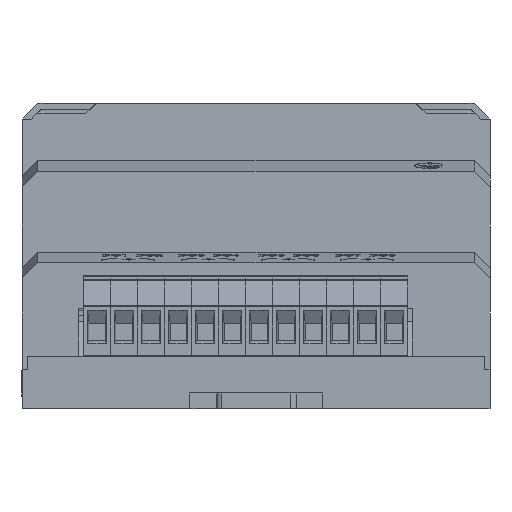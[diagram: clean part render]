
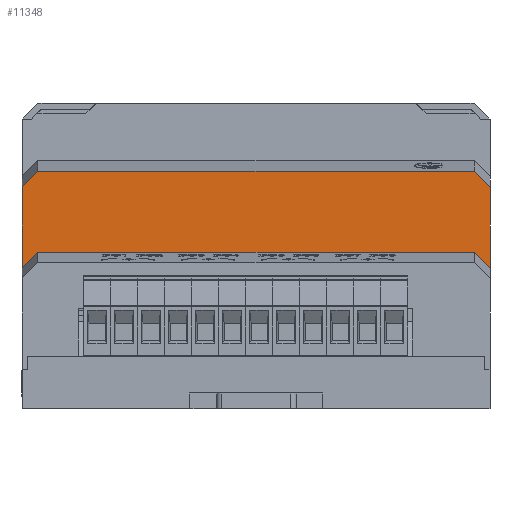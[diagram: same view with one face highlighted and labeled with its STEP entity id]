
A CAD part, front view. The second image highlights one B-rep face of the part: STEP entity #11348.
In plain terms, the highlighted planar face has unit normal (0, -1, 0).
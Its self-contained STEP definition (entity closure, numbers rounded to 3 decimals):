
#1126 = ORIENTED_EDGE ( 'NONE', *, *, #45878, .T. ) ;
#1438 = PLANE ( 'NONE',  #136729 ) ;
#4014 = CARTESIAN_POINT ( 'NONE',  ( 85., 10.85, 22.06 ) ) ;
#6213 = DIRECTION ( 'NONE',  ( 0., 0., -1. ) ) ;
#7848 = CARTESIAN_POINT ( 'NONE',  ( 0., 10.85, 37.272 ) ) ;
#10542 = ORIENTED_EDGE ( 'NONE', *, *, #114056, .T. ) ;
#11348 = ADVANCED_FACE ( 'NONE', ( #72200 ), #1438, .F. ) ;
#11481 = EDGE_LOOP ( 'NONE', ( #22865, #48694, #10542, #30078, #1126, #23134, #46437, #118535 ) ) ;
#13149 = DIRECTION ( 'NONE',  ( 0., 0., 1. ) ) ;
#15981 = LINE ( 'NONE', #7848, #124207 ) ;
#19309 = EDGE_CURVE ( 'NONE', #109772, #67808, #58591, .T. ) ;
#21436 = CARTESIAN_POINT ( 'NONE',  ( 4.014, 10.85, 38.302 ) ) ;
#21937 = LINE ( 'NONE', #105141, #100846 ) ;
#22442 = EDGE_CURVE ( 'NONE', #40809, #143829, #116569, .T. ) ;
#22865 = ORIENTED_EDGE ( 'NONE', *, *, #40527, .F. ) ;
#23134 = ORIENTED_EDGE ( 'NONE', *, *, #72952, .T. ) ;
#28817 = DIRECTION ( 'NONE',  ( 0.702, 0., -0.712 ) ) ;
#30078 = ORIENTED_EDGE ( 'NONE', *, *, #19309, .T. ) ;
#30617 = VECTOR ( 'NONE', #126192, 1000. ) ;
#31543 = DIRECTION ( 'NONE',  ( -1., 0., 0. ) ) ;
#35558 = VECTOR ( 'NONE', #151909, 1000. ) ;
#39265 = CARTESIAN_POINT ( 'NONE',  ( 88., 10.85, 19.014 ) ) ;
#39701 = VECTOR ( 'NONE', #31543, 1000. ) ;
#40527 = EDGE_CURVE ( 'NONE', #41369, #143829, #61006, .T. ) ;
#40809 = VERTEX_POINT ( 'NONE', #4014 ) ;
#41369 = VERTEX_POINT ( 'NONE', #48836 ) ;
#43412 = LINE ( 'NONE', #67805, #30617 ) ;
#45878 = EDGE_CURVE ( 'NONE', #67808, #132920, #15981, .T. ) ;
#46165 = DIRECTION ( 'NONE',  ( 0.702, 0., 0.712 ) ) ;
#46437 = ORIENTED_EDGE ( 'NONE', *, *, #116690, .F. ) ;
#48694 = ORIENTED_EDGE ( 'NONE', *, *, #143662, .T. ) ;
#48836 = CARTESIAN_POINT ( 'NONE',  ( 88., 10.85, 34.226 ) ) ;
#51250 = CARTESIAN_POINT ( 'NONE',  ( 88., 10.85, 37.272 ) ) ;
#54056 = CARTESIAN_POINT ( 'NONE',  ( 88., 10.85, 22.06 ) ) ;
#58591 = LINE ( 'NONE', #21436, #66000 ) ;
#61006 = LINE ( 'NONE', #51250, #145168 ) ;
#66000 = VECTOR ( 'NONE', #127992, 1000. ) ;
#66951 = CARTESIAN_POINT ( 'NONE',  ( 3., 10.85, 22.06 ) ) ;
#67756 = DIRECTION ( 'NONE',  ( 0., 0., -1. ) ) ;
#67805 = CARTESIAN_POINT ( 'NONE',  ( 88., 10.85, 37.272 ) ) ;
#67808 = VERTEX_POINT ( 'NONE', #78266 ) ;
#72200 = FACE_OUTER_BOUND ( 'NONE', #11481, .T. ) ;
#72633 = VECTOR ( 'NONE', #28817, 1000. ) ;
#72952 = EDGE_CURVE ( 'NONE', #132920, #128337, #21937, .T. ) ;
#78266 = CARTESIAN_POINT ( 'NONE',  ( 0., 10.85, 34.226 ) ) ;
#81809 = CARTESIAN_POINT ( 'NONE',  ( 89.444, 10.85, 32.76 ) ) ;
#95705 = DIRECTION ( 'NONE',  ( 0., 1., 0. ) ) ;
#100846 = VECTOR ( 'NONE', #46165, 1000. ) ;
#103539 = LINE ( 'NONE', #81809, #35558 ) ;
#105141 = CARTESIAN_POINT ( 'NONE',  ( 52.455, 10.85, 72.278 ) ) ;
#109772 = VERTEX_POINT ( 'NONE', #151317 ) ;
#111817 = CARTESIAN_POINT ( 'NONE',  ( 78.872, 10.85, 28.283 ) ) ;
#114056 = EDGE_CURVE ( 'NONE', #135029, #109772, #43412, .T. ) ;
#116569 = LINE ( 'NONE', #111817, #72633 ) ;
#116690 = EDGE_CURVE ( 'NONE', #40809, #128337, #122147, .T. ) ;
#118535 = ORIENTED_EDGE ( 'NONE', *, *, #22442, .T. ) ;
#119185 = CARTESIAN_POINT ( 'NONE',  ( 88., 10.85, 37.272 ) ) ;
#122147 = LINE ( 'NONE', #54056, #39701 ) ;
#124207 = VECTOR ( 'NONE', #67756, 1000. ) ;
#126192 = DIRECTION ( 'NONE',  ( -1., 0., 0. ) ) ;
#126607 = CARTESIAN_POINT ( 'NONE',  ( 85., 10.85, 37.272 ) ) ;
#127992 = DIRECTION ( 'NONE',  ( -0.702, 0., -0.712 ) ) ;
#128337 = VERTEX_POINT ( 'NONE', #66951 ) ;
#132920 = VERTEX_POINT ( 'NONE', #138355 ) ;
#135029 = VERTEX_POINT ( 'NONE', #126607 ) ;
#136729 = AXIS2_PLACEMENT_3D ( 'NONE', #119185, #95705, #13149 ) ;
#138355 = CARTESIAN_POINT ( 'NONE',  ( 0., 10.85, 19.014 ) ) ;
#143662 = EDGE_CURVE ( 'NONE', #41369, #135029, #103539, .T. ) ;
#143829 = VERTEX_POINT ( 'NONE', #39265 ) ;
#145168 = VECTOR ( 'NONE', #6213, 1000. ) ;
#151317 = CARTESIAN_POINT ( 'NONE',  ( 3., 10.85, 37.272 ) ) ;
#151909 = DIRECTION ( 'NONE',  ( -0.702, 0., 0.712 ) ) ;
